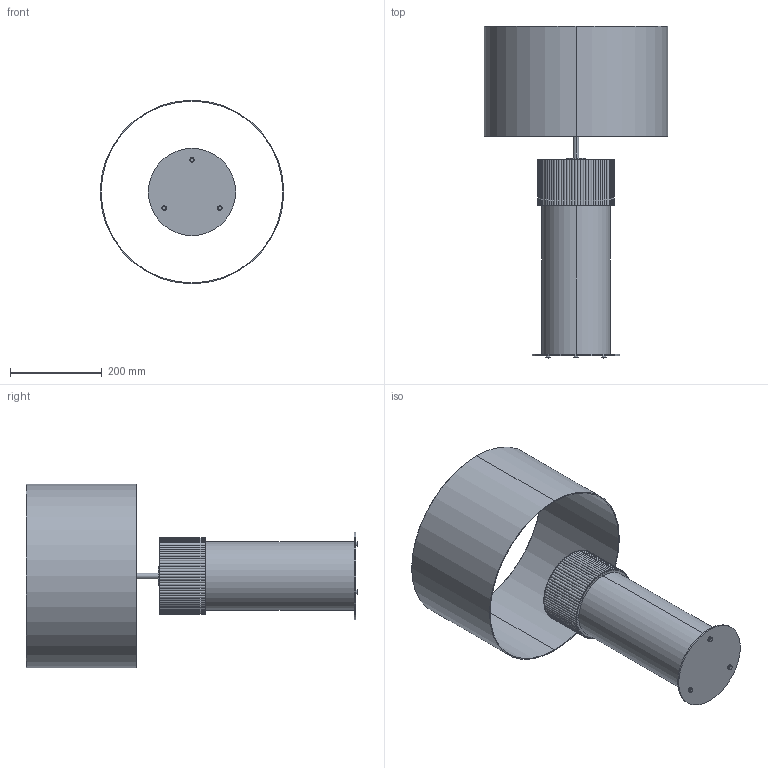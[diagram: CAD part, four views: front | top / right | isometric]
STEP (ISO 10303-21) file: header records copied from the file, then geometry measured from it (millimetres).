
FILE_DESCRIPTION (( 'STEP AP214' ), '1' );
FILE_NAME ('ROCK_NAC141_L.STEP', '2025-03-06T08:31:44', ( '' ), ( '' ), 'SwSTEP 2.0', 'SolidWorks 2018', '' );
FILE_SCHEMA (( 'AUTOMOTIVE_DESIGN' ));
Length unit declared in the file: millimetre
Products named in the file (1): ROCK_NAC141_L
Bounding box: 400 x 723 x 400 mm (x, y, z)
Volume: 2408596.7 mm3; surface area: 1194214.3 mm2
Topology: 9 solids, 9 shells, 174 faces, 459 edges, 304 vertices
Faces by surface type: cylinder 149, plane 19, torus 6
Entity records: 5683 total; most frequent: DIRECTION 1119, CARTESIAN_POINT 938, ORIENTED_EDGE 918, AXIS2_PLACEMENT_3D 485, EDGE_CURVE 459, CIRCLE 310, VERTEX_POINT 304, EDGE_LOOP 181
